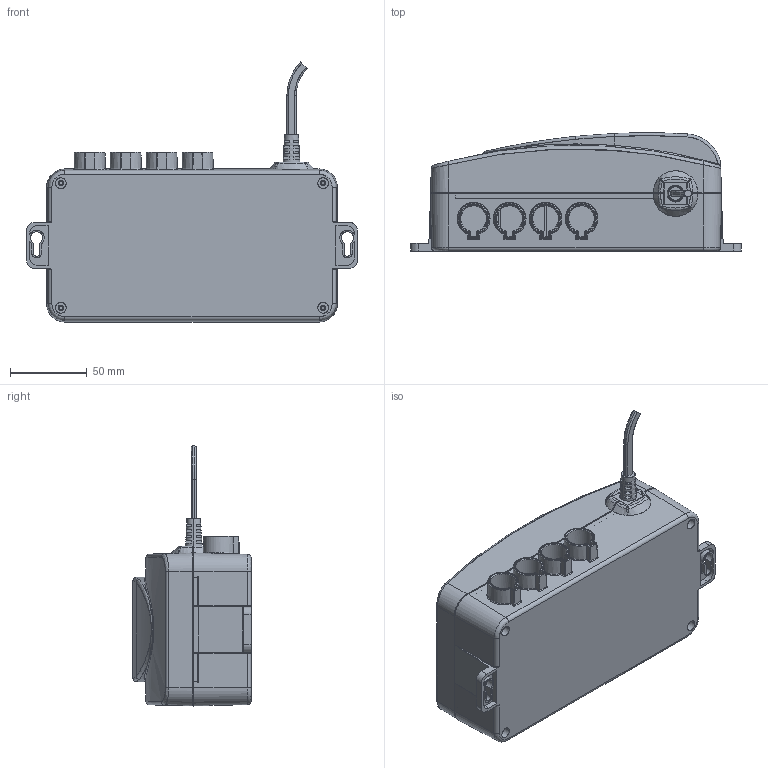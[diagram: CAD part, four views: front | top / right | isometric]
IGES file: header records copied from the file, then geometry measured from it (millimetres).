
Start section:  PTC IGES file: cb3t-syd.igs
Global section: file name: cb3t-syd.igs; native system: Creo Parametric by Parametric Technology Corporation; preprocessor: 2016240; author: USER; organization: Unknown; date: 20190924.115211; units: millimetre
Bounding box: 216 x 77.29 x 169.87 mm (x, y, z)
Surface area: 181603.6 mm2 (no closed solid volume)
Topology: 0 solids, 1005 shells, 1005 faces, 5468 edges, 5464 vertices
Faces by surface type: bspline 511, revolution 432, extrusion 62
